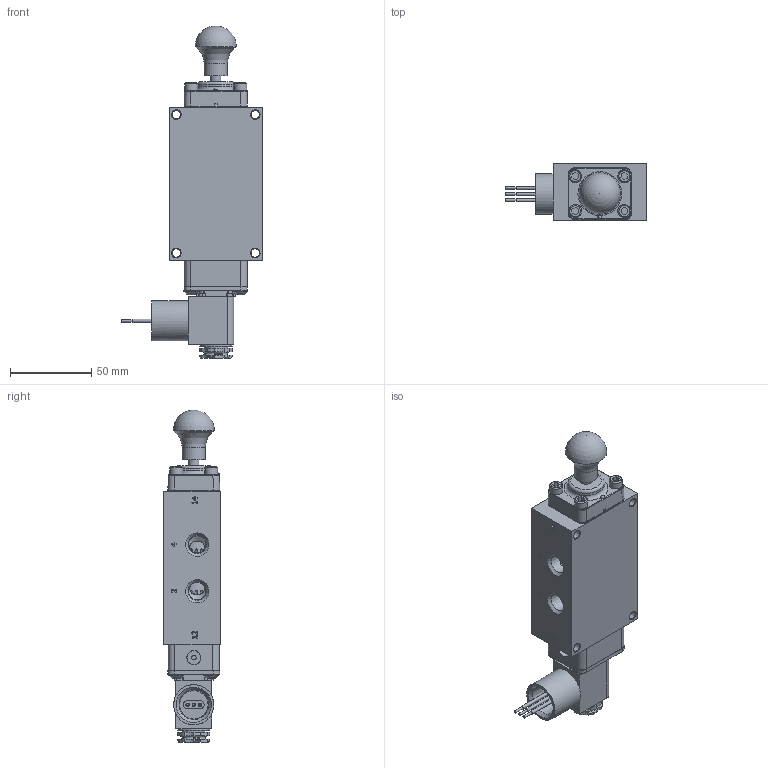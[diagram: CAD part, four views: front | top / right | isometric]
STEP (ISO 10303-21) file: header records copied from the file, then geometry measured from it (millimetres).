
FILE_DESCRIPTION(/* description */ (''),/* implementation_level */ '2;1');
FILE_NAME(/* name */ 'ZESO2JCOSZ.stp',/* time_stamp */ '2026-08-01T08:30:58-04:00',/* author */ ('rmckenna'),/* organization */ (''),/* preprocessor_version */ 'ST-DEVELOPER v20.1',/* originating_system */ 'Autodesk Inventor 2026',/* authorisation */ '');
FILE_SCHEMA (('AUTOMOTIVE_DESIGN { 1 0 10303 214 3 1 1 }'));
Products named in the file (1): Part128
Bounding box: 86.33 x 34.92 x 203.78 mm (x, y, z)
Volume: 222738.9 mm3; surface area: 75165.8 mm2
Topology: 1 solids, 20 shells, 1565 faces, 3866 edges, 2460 vertices
Faces by surface type: plane 720, cylinder 376, cone 260, torus 116, bspline 87, sphere 6
Full cylindrical faces by diameter (mm): 1.168 x10, 1.3 x1, 1.397 x1, 1.5 x1, 1.524 x3, 2.032 x7, 2.35 x4, 2.381 x1, 2.8 x1, 2.819 x1, 3 x4, 3.048 x1, 3.175 x1, 3.4 x1, 3.683 x9, 4.191 x2, 4.394 x1, 4.826 x8, 4.953 x1, 4.978 x1, 5.15 x4, 5.156 x12, 5.5 x1, 6.35 x4, 6.553 x1, 7.29 x1, 7.541 x1, 7.938 x4, 8 x2, 8.052 x1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
Entity records: 52402 total; most frequent: CARTESIAN_POINT 13669, ORIENTED_EDGE 7706, DIRECTION 7626, EDGE_CURVE 3853, AXIS2_PLACEMENT_3D 2817, VERTEX_POINT 2458, LINE 1992, VECTOR 1992
